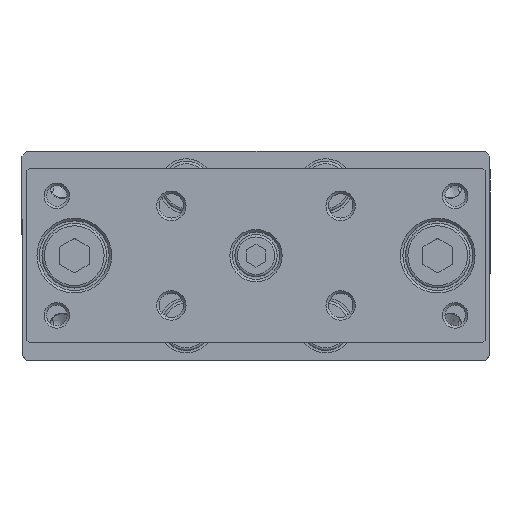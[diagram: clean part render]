
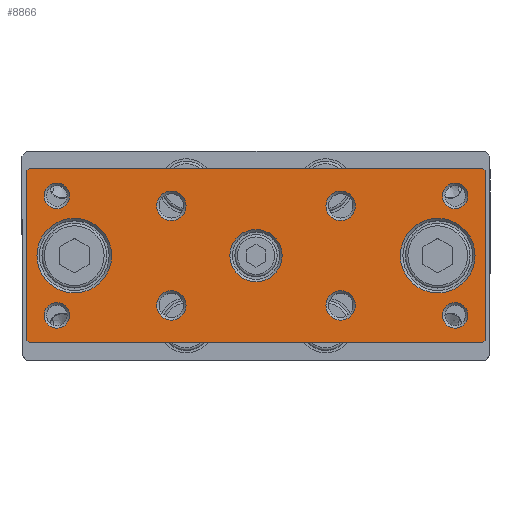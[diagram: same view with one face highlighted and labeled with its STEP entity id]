
A CAD part, top view. The second image highlights one B-rep face of the part: STEP entity #8866.
In plain terms, the highlighted planar face has unit normal (0, 0, 1).
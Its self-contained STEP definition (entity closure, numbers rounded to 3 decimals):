
#7566=CARTESIAN_POINT('',(42.976,19.784,118.2));
#7567=VERTEX_POINT('',#7566);
#7568=CARTESIAN_POINT('',(43.476,19.284,118.2));
#7569=VERTEX_POINT('',#7568);
#7570=CARTESIAN_POINT('',(42.976,19.784,118.2));
#7571=DIRECTION('',(0.707,-0.707,0.0));
#7572=VECTOR('',#7571,0.707);
#7573=LINE('',#7570,#7572);
#7574=EDGE_CURVE('',#7567,#7569,#7573,.T.);
#7708=CARTESIAN_POINT('',(-48.024,19.784,118.2));
#7709=VERTEX_POINT('',#7708);
#7718=CARTESIAN_POINT('',(42.976,19.784,118.2));
#7719=DIRECTION('',(-1.0,0.0,0.0));
#7720=VECTOR('',#7719,91.);
#7721=LINE('',#7718,#7720);
#7722=EDGE_CURVE('',#7567,#7709,#7721,.T.);
#7767=CARTESIAN_POINT('',(43.476,-14.716,118.2));
#7768=VERTEX_POINT('',#7767);
#7782=CARTESIAN_POINT('',(43.476,-14.716,118.2));
#7783=DIRECTION('',(0.0,1.0,0.0));
#7784=VECTOR('',#7783,34.0);
#7785=LINE('',#7782,#7784);
#7786=EDGE_CURVE('',#7768,#7569,#7785,.T.);
#7805=CARTESIAN_POINT('',(42.976,-15.216,118.2));
#7806=VERTEX_POINT('',#7805);
#7807=CARTESIAN_POINT('',(43.476,-14.716,118.2));
#7808=DIRECTION('',(-0.707,-0.707,0.0));
#7809=VECTOR('',#7808,0.707);
#7810=LINE('',#7807,#7809);
#7811=EDGE_CURVE('',#7768,#7806,#7810,.T.);
#7827=CARTESIAN_POINT('',(-48.024,-15.216,118.2));
#7828=VERTEX_POINT('',#7827);
#7829=CARTESIAN_POINT('',(-48.524,-14.716,118.2));
#7830=VERTEX_POINT('',#7829);
#7831=CARTESIAN_POINT('',(-48.024,-15.216,118.2));
#7832=DIRECTION('',(-0.707,0.707,0.0));
#7833=VECTOR('',#7832,0.707);
#7834=LINE('',#7831,#7833);
#7835=EDGE_CURVE('',#7828,#7830,#7834,.T.);
#7935=CARTESIAN_POINT('',(-48.024,-15.216,118.2));
#7936=DIRECTION('',(1.0,0.0,0.0));
#7937=VECTOR('',#7936,91.);
#7938=LINE('',#7935,#7937);
#7939=EDGE_CURVE('',#7828,#7806,#7938,.T.);
#8123=CARTESIAN_POINT('',(-48.524,19.284,118.2));
#8124=VERTEX_POINT('',#8123);
#8133=CARTESIAN_POINT('',(-48.524,19.284,118.2));
#8134=DIRECTION('',(0.0,-1.0,0.0));
#8135=VECTOR('',#8134,34.0);
#8136=LINE('',#8133,#8135);
#8137=EDGE_CURVE('',#8124,#7830,#8136,.T.);
#8149=CARTESIAN_POINT('',(-48.524,19.284,118.2));
#8150=DIRECTION('',(0.707,0.707,0.0));
#8151=VECTOR('',#8150,0.707);
#8152=LINE('',#8149,#8151);
#8153=EDGE_CURVE('',#8124,#7709,#8152,.T.);
#8208=CARTESIAN_POINT('',(2.726,2.284,118.2));
#8209=VERTEX_POINT('',#8208);
#8210=CARTESIAN_POINT('',(-2.524,2.284,118.2));
#8211=DIRECTION('',(0.0,0.0,1.0));
#8212=DIRECTION('',(-1.0,0.0,0.0));
#8213=AXIS2_PLACEMENT_3D('',#8210,#8211,#8212);
#8214=CIRCLE('',#8213,5.25);
#8215=EDGE_CURVE('',#8209,#8209,#8214,.T.);
#8269=CARTESIAN_POINT('',(-39.957,14.284,118.2));
#8270=VERTEX_POINT('',#8269);
#8271=CARTESIAN_POINT('',(-42.524,14.284,118.2));
#8272=DIRECTION('',(0.0,0.0,1.0));
#8273=DIRECTION('',(-1.0,0.0,0.0));
#8274=AXIS2_PLACEMENT_3D('',#8271,#8272,#8273);
#8275=CIRCLE('',#8274,2.567);
#8276=EDGE_CURVE('',#8270,#8270,#8275,.T.);
#8330=CARTESIAN_POINT('',(41.476,2.284,118.2));
#8331=VERTEX_POINT('',#8330);
#8332=CARTESIAN_POINT('',(33.976,2.284,118.2));
#8333=DIRECTION('',(0.0,0.0,1.0));
#8334=DIRECTION('',(-1.0,0.0,0.0));
#8335=AXIS2_PLACEMENT_3D('',#8332,#8333,#8334);
#8336=CIRCLE('',#8335,7.5);
#8337=EDGE_CURVE('',#8331,#8331,#8336,.T.);
#8391=CARTESIAN_POINT('',(-39.957,-9.716,118.2));
#8392=VERTEX_POINT('',#8391);
#8393=CARTESIAN_POINT('',(-42.524,-9.716,118.2));
#8394=DIRECTION('',(0.0,0.0,1.0));
#8395=DIRECTION('',(-1.0,0.0,0.0));
#8396=AXIS2_PLACEMENT_3D('',#8393,#8394,#8395);
#8397=CIRCLE('',#8396,2.567);
#8398=EDGE_CURVE('',#8392,#8392,#8397,.T.);
#8452=CARTESIAN_POINT('',(-31.524,2.284,118.2));
#8453=VERTEX_POINT('',#8452);
#8454=CARTESIAN_POINT('',(-39.024,2.284,118.2));
#8455=DIRECTION('',(0.0,0.0,1.0));
#8456=DIRECTION('',(-1.0,0.0,0.0));
#8457=AXIS2_PLACEMENT_3D('',#8454,#8455,#8456);
#8458=CIRCLE('',#8457,7.5);
#8459=EDGE_CURVE('',#8453,#8453,#8458,.T.);
#8513=CARTESIAN_POINT('',(40.043,-9.716,118.2));
#8514=VERTEX_POINT('',#8513);
#8515=CARTESIAN_POINT('',(37.476,-9.716,118.2));
#8516=DIRECTION('',(0.0,0.0,1.0));
#8517=DIRECTION('',(-1.0,0.0,0.0));
#8518=AXIS2_PLACEMENT_3D('',#8515,#8516,#8517);
#8519=CIRCLE('',#8518,2.567);
#8520=EDGE_CURVE('',#8514,#8514,#8519,.T.);
#8574=CARTESIAN_POINT('',(17.434,-7.716,118.2));
#8575=VERTEX_POINT('',#8574);
#8576=CARTESIAN_POINT('',(14.476,-7.716,118.2));
#8577=DIRECTION('',(0.0,0.0,1.0));
#8578=DIRECTION('',(-1.0,0.0,0.0));
#8579=AXIS2_PLACEMENT_3D('',#8576,#8577,#8578);
#8580=CIRCLE('',#8579,2.959);
#8581=EDGE_CURVE('',#8575,#8575,#8580,.T.);
#8635=CARTESIAN_POINT('',(40.043,14.284,118.2));
#8636=VERTEX_POINT('',#8635);
#8637=CARTESIAN_POINT('',(37.476,14.284,118.2));
#8638=DIRECTION('',(0.0,0.0,1.0));
#8639=DIRECTION('',(-1.0,0.0,0.0));
#8640=AXIS2_PLACEMENT_3D('',#8637,#8638,#8639);
#8641=CIRCLE('',#8640,2.567);
#8642=EDGE_CURVE('',#8636,#8636,#8641,.T.);
#8696=CARTESIAN_POINT('',(-16.566,-7.716,118.2));
#8697=VERTEX_POINT('',#8696);
#8698=CARTESIAN_POINT('',(-19.524,-7.716,118.2));
#8699=DIRECTION('',(0.0,0.0,1.0));
#8700=DIRECTION('',(-1.0,0.0,0.0));
#8701=AXIS2_PLACEMENT_3D('',#8698,#8699,#8700);
#8702=CIRCLE('',#8701,2.958);
#8703=EDGE_CURVE('',#8697,#8697,#8702,.T.);
#8757=CARTESIAN_POINT('',(-16.566,12.284,118.2));
#8758=VERTEX_POINT('',#8757);
#8759=CARTESIAN_POINT('',(-19.524,12.284,118.2));
#8760=DIRECTION('',(0.0,0.0,1.0));
#8761=DIRECTION('',(-1.0,0.0,0.0));
#8762=AXIS2_PLACEMENT_3D('',#8759,#8760,#8761);
#8763=CIRCLE('',#8762,2.958);
#8764=EDGE_CURVE('',#8758,#8758,#8763,.T.);
#8810=CARTESIAN_POINT('',(-48.524,2.284,118.2));
#8811=DIRECTION('',(0.0,0.0,1.0));
#8812=DIRECTION('',(1.0,0.0,0.0));
#8813=AXIS2_PLACEMENT_3D('',#8810,#8811,#8812);
#8814=PLANE('',#8813);
#8815=ORIENTED_EDGE('',*,*,#8153,.F.);
#8816=ORIENTED_EDGE('',*,*,#8137,.T.);
#8817=ORIENTED_EDGE('',*,*,#7835,.F.);
#8818=ORIENTED_EDGE('',*,*,#7939,.T.);
#8819=ORIENTED_EDGE('',*,*,#7811,.F.);
#8820=ORIENTED_EDGE('',*,*,#7786,.T.);
#8821=ORIENTED_EDGE('',*,*,#7574,.F.);
#8822=ORIENTED_EDGE('',*,*,#7722,.T.);
#8823=EDGE_LOOP('',(#8815,#8816,#8817,#8818,#8819,#8820,#8821,#8822));
#8824=FACE_OUTER_BOUND('',#8823,.T.);
#8825=ORIENTED_EDGE('',*,*,#8764,.F.);
#8826=EDGE_LOOP('',(#8825));
#8827=FACE_BOUND('',#8826,.T.);
#8828=ORIENTED_EDGE('',*,*,#8642,.F.);
#8829=EDGE_LOOP('',(#8828));
#8830=FACE_BOUND('',#8829,.T.);
#8831=ORIENTED_EDGE('',*,*,#8520,.F.);
#8832=EDGE_LOOP('',(#8831));
#8833=FACE_BOUND('',#8832,.T.);
#8834=ORIENTED_EDGE('',*,*,#8398,.F.);
#8835=EDGE_LOOP('',(#8834));
#8836=FACE_BOUND('',#8835,.T.);
#8837=ORIENTED_EDGE('',*,*,#8276,.F.);
#8838=EDGE_LOOP('',(#8837));
#8839=FACE_BOUND('',#8838,.T.);
#8840=ORIENTED_EDGE('',*,*,#8215,.F.);
#8841=EDGE_LOOP('',(#8840));
#8842=FACE_BOUND('',#8841,.T.);
#8843=ORIENTED_EDGE('',*,*,#8337,.F.);
#8844=EDGE_LOOP('',(#8843));
#8845=FACE_BOUND('',#8844,.T.);
#8846=ORIENTED_EDGE('',*,*,#8459,.F.);
#8847=EDGE_LOOP('',(#8846));
#8848=FACE_BOUND('',#8847,.T.);
#8849=ORIENTED_EDGE('',*,*,#8581,.F.);
#8850=EDGE_LOOP('',(#8849));
#8851=FACE_BOUND('',#8850,.T.);
#8852=ORIENTED_EDGE('',*,*,#8703,.F.);
#8853=EDGE_LOOP('',(#8852));
#8854=FACE_BOUND('',#8853,.T.);
#8855=CARTESIAN_POINT('',(17.434,12.284,118.2));
#8856=VERTEX_POINT('',#8855);
#8857=CARTESIAN_POINT('',(14.476,12.284,118.2));
#8858=DIRECTION('',(0.0,0.0,1.0));
#8859=DIRECTION('',(-1.0,0.0,0.0));
#8860=AXIS2_PLACEMENT_3D('',#8857,#8858,#8859);
#8861=CIRCLE('',#8860,2.959);
#8862=EDGE_CURVE('',#8856,#8856,#8861,.T.);
#8863=ORIENTED_EDGE('',*,*,#8862,.F.);
#8864=EDGE_LOOP('',(#8863));
#8865=FACE_BOUND('',#8864,.T.);
#8866=ADVANCED_FACE('',(#8824,#8827,#8830,#8833,#8836,#8839,#8842,#8845,#8848,#8851,#8854,#8865),#8814,.T.);
